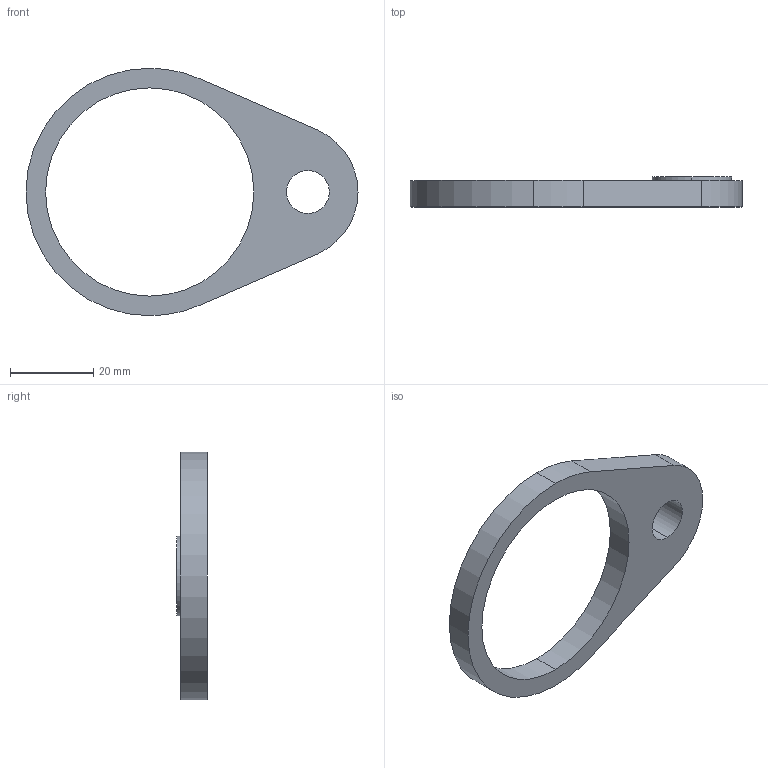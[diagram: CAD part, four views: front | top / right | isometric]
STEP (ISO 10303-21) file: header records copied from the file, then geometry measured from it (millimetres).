
FILE_DESCRIPTION (( 'STEP AP214' ), '1' );
FILE_NAME ('GasSpringClamp-B-50.stp', '2011-04-26T19:45:14', ( '' ), ( '' ), 'SwSTEP 2.0', 'SolidWorks 2010', '' );
FILE_SCHEMA (( 'AUTOMOTIVE_DESIGN' ));
Length unit declared in the file: inch
Products named in the file (1): GasSpringClamp-B-50
Bounding box: 79.73 x 7.24 x 59.44 mm (x, y, z)
Volume: 9275.9 mm3; surface area: 5530.8 mm2
Topology: 1 solids, 1 shells, 15 faces, 36 edges, 24 vertices
Faces by surface type: cylinder 10, plane 5
Entity records: 498 total; most frequent: DIRECTION 88, CARTESIAN_POINT 76, ORIENTED_EDGE 72, AXIS2_PLACEMENT_3D 36, EDGE_CURVE 36, VERTEX_POINT 24, CIRCLE 20, EDGE_LOOP 20
